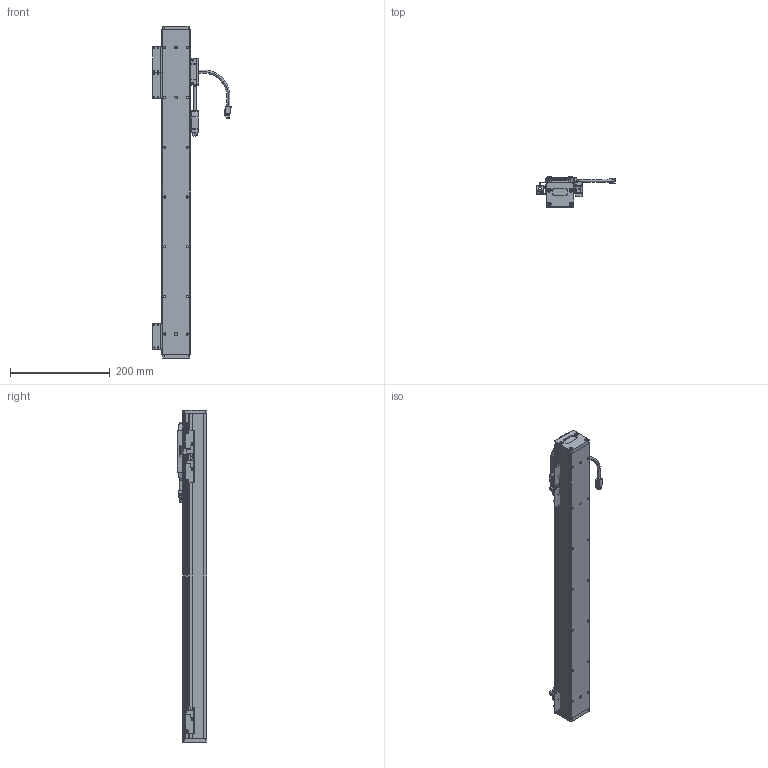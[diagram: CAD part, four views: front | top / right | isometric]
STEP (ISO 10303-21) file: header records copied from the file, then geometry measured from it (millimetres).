
FILE_DESCRIPTION(('Open CASCADE Model'),'2;1');
FILE_NAME('Open CASCADE Shape Model','2025-11-07T00:46:08',('Author'),( 'Open CASCADE'),'Open CASCADE STEP processor 7.6','Open CASCADE 7.6' ,'Unknown');
FILE_SCHEMA(('AUTOMOTIVE_DESIGN { 1 0 10303 214 1 1 1 1 }'));
Length unit declared in the file: millimetre
Products named in the file (25): Open CASCADE STEP translator 7.6 200; Open CASCADE STEP translator 7.6 200.1; Open CASCADE STEP translator 7.6 200.2; Open CASCADE STEP translator 7.6 200.3; Open CASCADE STEP translator 7.6 200.4; Open CASCADE STEP translator 7.6 200.5; Open CASCADE STEP translator 7.6 200.6; Open CASCADE STEP translator 7.6 200.7; Open CASCADE STEP translator 7.6 200.8; Open CASCADE STEP translator 7.6 200.9; Open CASCADE STEP translator 7.6 200.10; Open CASCADE STEP translator 7.6 200.11; Open CASCADE STEP translator 7.6 200.12; Open CASCADE STEP translator 7.6 200.13; Open CASCADE STEP translator 7.6 200.14; Open CASCADE STEP translator 7.6 200.14.1; Open CASCADE STEP translator 7.6 200.14.1.1; Open CASCADE STEP translator 7.6 200.14.1.2; Open CASCADE STEP translator 7.6 200.14.1.3; Open CASCADE STEP translator 7.6 200.14.1.4; Open CASCADE STEP translator 7.6 200.14.1.5; Open CASCADE STEP translator 7.6 200.15; Open CASCADE STEP translator 7.6 200.16; Open CASCADE STEP translator 7.6 200.17; Open CASCADE STEP translator 7.6 200.18
Assembly tree (24 placements, depth 4):
  Open CASCADE STEP translator 7.6 200
    Open CASCADE STEP translator 7.6 200.1
    Open CASCADE STEP translator 7.6 200.2
    Open CASCADE STEP translator 7.6 200.3
    Open CASCADE STEP translator 7.6 200.4
    Open CASCADE STEP translator 7.6 200.5
    Open CASCADE STEP translator 7.6 200.6
    Open CASCADE STEP translator 7.6 200.7
    Open CASCADE STEP translator 7.6 200.8
    Open CASCADE STEP translator 7.6 200.9
    Open CASCADE STEP translator 7.6 200.10
    Open CASCADE STEP translator 7.6 200.11
    Open CASCADE STEP translator 7.6 200.12
    Open CASCADE STEP translator 7.6 200.13
    Open CASCADE STEP translator 7.6 200.14
      Open CASCADE STEP translator 7.6 200.14.1
        Open CASCADE STEP translator 7.6 200.14.1.1
        Open CASCADE STEP translator 7.6 200.14.1.2
        Open CASCADE STEP translator 7.6 200.14.1.3
        Open CASCADE STEP translator 7.6 200.14.1.4
        Open CASCADE STEP translator 7.6 200.14.1.5
    Open CASCADE STEP translator 7.6 200.15
    Open CASCADE STEP translator 7.6 200.16
    Open CASCADE STEP translator 7.6 200.17
    Open CASCADE STEP translator 7.6 200.18
Bounding box: 158 x 60 x 666 mm (x, y, z)
Volume: 1816789.6 mm3; surface area: 256027.7 mm2
Topology: 22 solids, 23 shells, 1879 faces, 4689 edges, 2968 vertices
Faces by surface type: plane 979, cylinder 688, bspline 112, cone 84, torus 16
Entity records: 143862 total; most frequent: CARTESIAN_POINT 51741, DIRECTION 16854, LINE 10359, VECTOR 10359, ORIENTED_EDGE 9244, PCURVE 9244, DEFINITIONAL_REPRESENTATION 9244, EDGE_CURVE 4622
